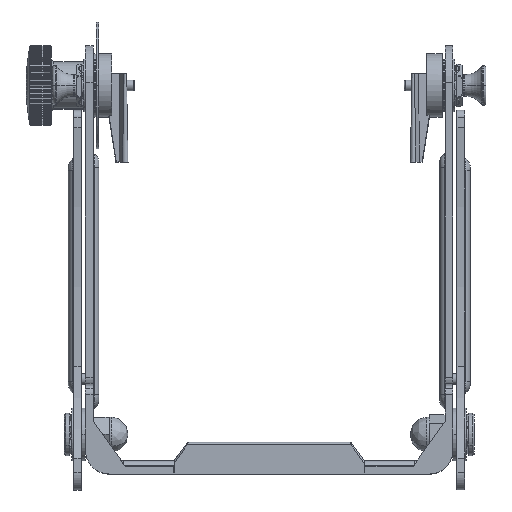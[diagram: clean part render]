
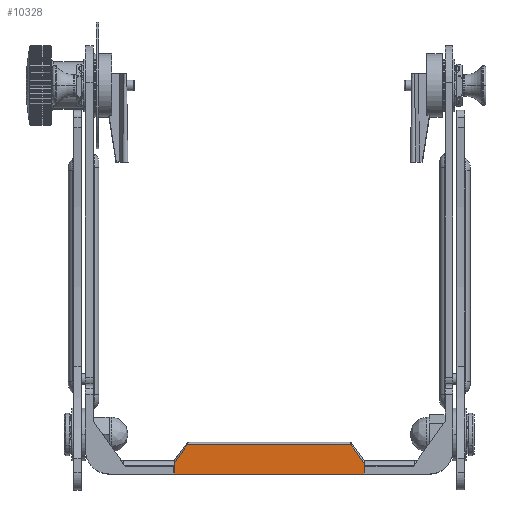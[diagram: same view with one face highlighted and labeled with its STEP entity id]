
A CAD part, top view. The second image highlights one B-rep face of the part: STEP entity #10328.
In plain terms, the highlighted planar face has unit normal (0, 0, 1) as drawn and (1, 0, 0) by its records, which use the part's own axes.
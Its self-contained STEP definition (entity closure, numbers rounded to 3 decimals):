
#1502 = VERTEX_POINT ( 'NONE', #38992 ) ;
#1631 = LINE ( 'NONE', #7187, #34259 ) ;
#2110 = ORIENTED_EDGE ( 'NONE', *, *, #49656, .T. ) ;
#2352 = DIRECTION ( 'NONE',  ( 0., 0., 1. ) ) ;
#4383 = CARTESIAN_POINT ( 'NONE',  ( 14., 0., 36. ) ) ;
#4629 = CARTESIAN_POINT ( 'NONE',  ( 14., 35.672, -13.098 ) ) ;
#4644 = VERTEX_POINT ( 'NONE', #16818 ) ;
#5039 = CARTESIAN_POINT ( 'NONE',  ( 14., 0., -36. ) ) ;
#6330 = ORIENTED_EDGE ( 'NONE', *, *, #54018, .T. ) ;
#7187 = CARTESIAN_POINT ( 'NONE',  ( 14., 1.434, 37.973 ) ) ;
#7441 = CARTESIAN_POINT ( 'NONE',  ( 14., 11., 31.023 ) ) ;
#8465 = VERTEX_POINT ( 'NONE', #41777 ) ;
#8569 = LINE ( 'NONE', #4383, #53181 ) ;
#9336 = VERTEX_POINT ( 'NONE', #39223 ) ;
#10328 = ADVANCED_FACE ( 'NONE', ( #45139 ), #52519, .F. ) ;
#12424 = VERTEX_POINT ( 'NONE', #16889 ) ;
#15420 = EDGE_LOOP ( 'NONE', ( #26424, #25509, #6330, #2110, #44008, #40812 ) ) ;
#16818 = CARTESIAN_POINT ( 'NONE',  ( 14., 4.149, -36. ) ) ;
#16889 = CARTESIAN_POINT ( 'NONE',  ( 14., 0., 36. ) ) ;
#17387 = LINE ( 'NONE', #4629, #47818 ) ;
#19714 = CARTESIAN_POINT ( 'NONE',  ( 14., 0., 36. ) ) ;
#23317 = DIRECTION ( 'NONE',  ( 0., 0., -1. ) ) ;
#25509 = ORIENTED_EDGE ( 'NONE', *, *, #28776, .T. ) ;
#26424 = ORIENTED_EDGE ( 'NONE', *, *, #30398, .T. ) ;
#28300 = DIRECTION ( 'NONE',  ( 0., 0.809, 0.588 ) ) ;
#28471 = DIRECTION ( 'NONE',  ( 0., 1., 0. ) ) ;
#28619 = LINE ( 'NONE', #30793, #41260 ) ;
#28776 = EDGE_CURVE ( 'NONE', #4644, #8465, #17387, .T. ) ;
#29099 = CARTESIAN_POINT ( 'NONE',  ( 14., 0., 36. ) ) ;
#30398 = EDGE_CURVE ( 'NONE', #1502, #4644, #53114, .T. ) ;
#30793 = CARTESIAN_POINT ( 'NONE',  ( 14., 11., 36. ) ) ;
#32288 = LINE ( 'NONE', #29099, #52415 ) ;
#34259 = VECTOR ( 'NONE', #54353, 1000. ) ;
#38281 = DIRECTION ( 'NONE',  ( 0., 1., 0. ) ) ;
#38992 = CARTESIAN_POINT ( 'NONE',  ( 14., 0., -36. ) ) ;
#39223 = CARTESIAN_POINT ( 'NONE',  ( 14., 4.149, 36. ) ) ;
#40812 = ORIENTED_EDGE ( 'NONE', *, *, #46087, .T. ) ;
#41260 = VECTOR ( 'NONE', #2352, 1000. ) ;
#41777 = CARTESIAN_POINT ( 'NONE',  ( 14., 11., -31.023 ) ) ;
#43552 = DIRECTION ( 'NONE',  ( 0., 0., 1. ) ) ;
#44008 = ORIENTED_EDGE ( 'NONE', *, *, #46263, .F. ) ;
#44157 = VECTOR ( 'NONE', #38281, 1000. ) ;
#45139 = FACE_OUTER_BOUND ( 'NONE', #15420, .T. ) ;
#46087 = EDGE_CURVE ( 'NONE', #12424, #1502, #8569, .T. ) ;
#46263 = EDGE_CURVE ( 'NONE', #12424, #9336, #32288, .T. ) ;
#47507 = DIRECTION ( 'NONE',  ( -1., 0., 0. ) ) ;
#47818 = VECTOR ( 'NONE', #28300, 1000. ) ;
#49656 = EDGE_CURVE ( 'NONE', #53089, #9336, #1631, .T. ) ;
#52415 = VECTOR ( 'NONE', #28471, 1000. ) ;
#52519 = PLANE ( 'NONE',  #58222 ) ;
#53089 = VERTEX_POINT ( 'NONE', #7441 ) ;
#53114 = LINE ( 'NONE', #5039, #44157 ) ;
#53181 = VECTOR ( 'NONE', #23317, 1000. ) ;
#54018 = EDGE_CURVE ( 'NONE', #8465, #53089, #28619, .T. ) ;
#54353 = DIRECTION ( 'NONE',  ( 0., -0.809, 0.588 ) ) ;
#58222 = AXIS2_PLACEMENT_3D ( 'NONE', #19714, #47507, #43552 ) ;
